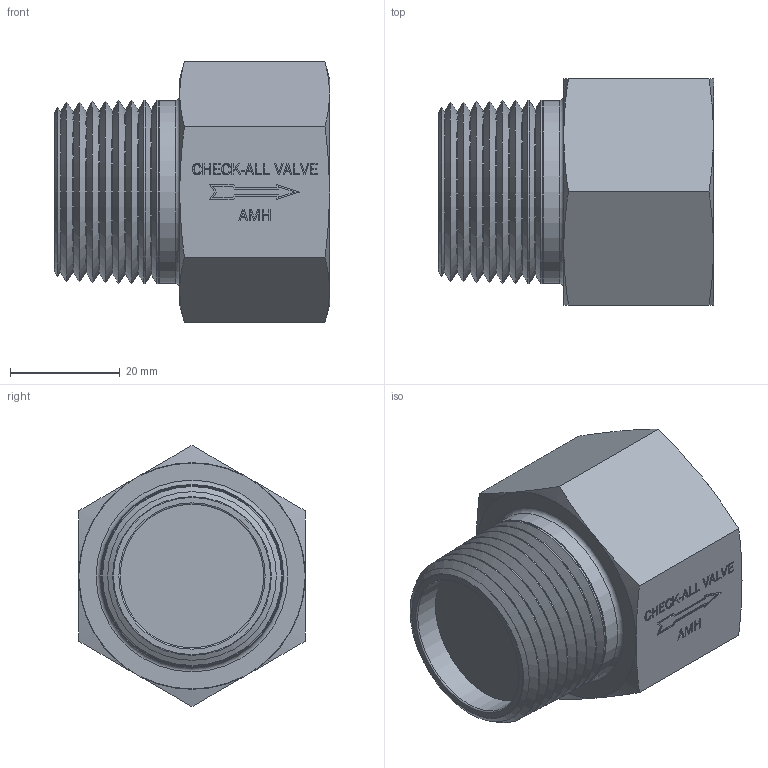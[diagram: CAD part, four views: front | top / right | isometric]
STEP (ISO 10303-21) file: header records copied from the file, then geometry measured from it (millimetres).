
FILE_DESCRIPTION(/* description */ ('Unknown'),/* implementation_level */ '2;1');
FILE_NAME(/* name */ 'AMHXXOR.500XX-WEB',/* time_stamp */ '2022-10-03T08:38:17-05:00',/* author */ ('Unknown'),/* organization */ ('Unknown'),/* preprocessor_version */ 'ST-DEVELOPER v18.102',/* originating_system */ 'Solid Edge',/* authorisation */ 'Unknown');
FILE_SCHEMA (('AUTOMOTIVE_DESIGN {1 0 10303 214 3 1 1}'));
Length unit declared in the file: inch
Products named in the file (1): AMHXXOR.500XX-WEB
Bounding box: 50.19 x 41.27 x 47.66 mm (x, y, z)
Volume: 44445.2 mm3; surface area: 14556.4 mm2
Topology: 1 solids, 1 shells, 338 faces, 835 edges, 527 vertices
Faces by surface type: plane 206, cone 75, cylinder 37, torus 16, bspline 4
Full cylindrical faces by diameter (mm): 15.062 x1, 19.05 x2, 26.187 x1, 29.491 x6, 33.401 x3
Entity records: 11729 total; most frequent: CARTESIAN_POINT 2237, ORIENTED_EDGE 1468, DIRECTION 1264, EDGE_CURVE 734, VERTEX_POINT 506, EDGE_LOOP 446, FACE_BOUND 446, AXIS2_PLACEMENT_3D 445
